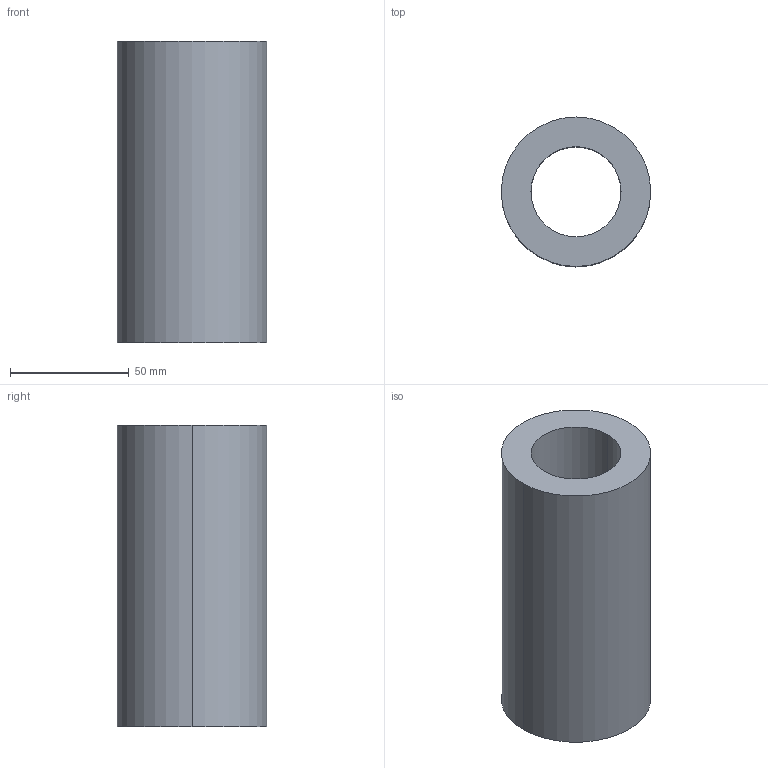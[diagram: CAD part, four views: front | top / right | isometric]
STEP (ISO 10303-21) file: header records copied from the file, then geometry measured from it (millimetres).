
FILE_DESCRIPTION (( 'STEP AP214' ), '1' );
FILE_NAME ('BRA-63X127.STEP', '2020-07-20T12:01:36', ( 'August' ), ( '' ), 'SwSTEP 2.0', 'SolidWorks 2018', '' );
FILE_SCHEMA (( 'AUTOMOTIVE_DESIGN' ));
Length unit declared in the file: millimetre
Products named in the file (1): BRA-63X127
Bounding box: 63 x 63 x 127 mm (x, y, z)
Volume: 251857.6 mm3; surface area: 44263.5 mm2
Topology: 1 solids, 1 shells, 6 faces, 12 edges, 8 vertices
Faces by surface type: cylinder 4, plane 2
Entity records: 202 total; most frequent: DIRECTION 34, CARTESIAN_POINT 27, ORIENTED_EDGE 24, AXIS2_PLACEMENT_3D 15, EDGE_CURVE 12, CIRCLE 8, VERTEX_POINT 8, EDGE_LOOP 8
